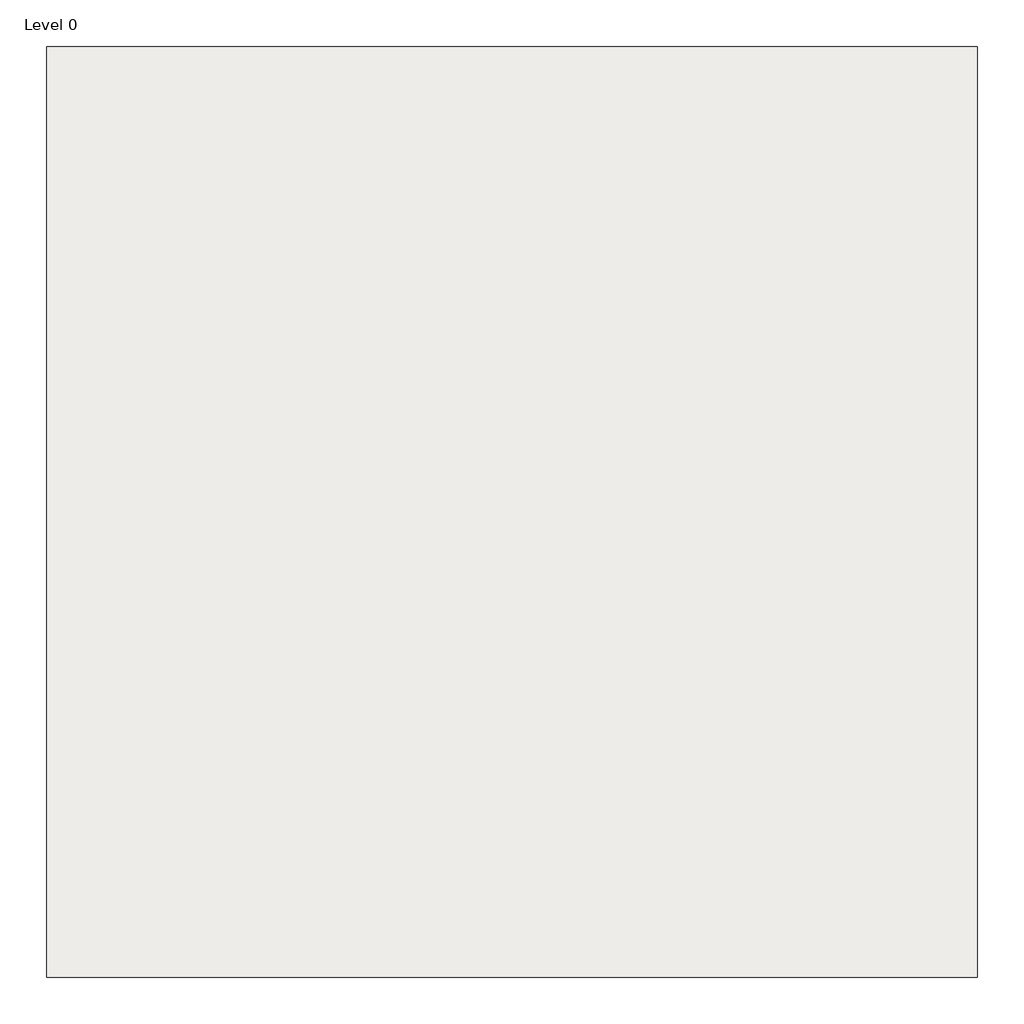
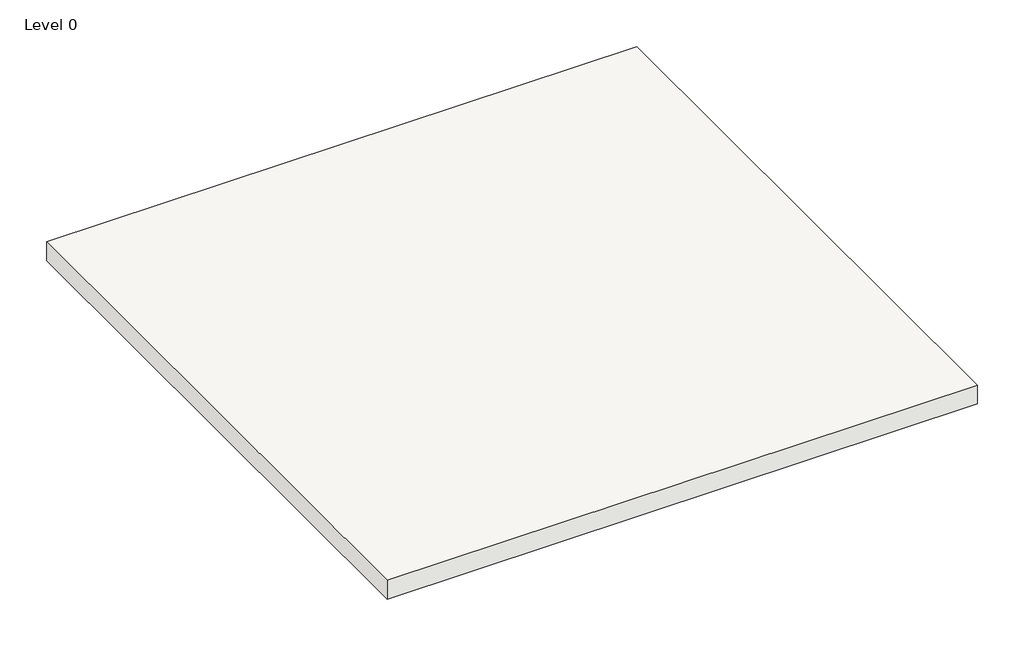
# One storey: 1 slab.
"""IFC4 building model written with IfcOpenShell, lengths in millimetres."""

from ifc_helpers import new_model, si_unit, origin, origin_with_axes, place, context, project, spatial, polyline, outline, extrude, element, save

model = new_model("IFC4")

# Units and contexts
model_context = context("Model", 3, world=origin())
ifc_project = project(units=[si_unit("LENGTHUNIT", "METRE", prefix="MILLI")], contexts=[model_context])

# Site, building, storey
site = spatial("IfcSite", under=ifc_project)
building = spatial("IfcBuilding", under=site)
storey = spatial("IfcBuildingStorey", under=building, Name="Level 0", Elevation=0.0)

# Slab
placement = place(None, origin())
element("IfcSlab", 1, ObjectType="NBS_IKOPLC_ReinforcedBitumenMembraneInvertedRoofCoveringSystems_IKOPermatecAntiRoot", at=placement, inside=storey, context=model_context, shape_type="SweptSolid", body=[
    extrude(outline(polyline([(0.0, -2500.0), (0.0, 0.0), (2500.0, 0.0), (2500.0, -2500.0), (0.0, -2500.0)])), origin_with_axes(), (0.0, 0.0, 1.0), 83.4),
])

save(model, "model.ifc")
